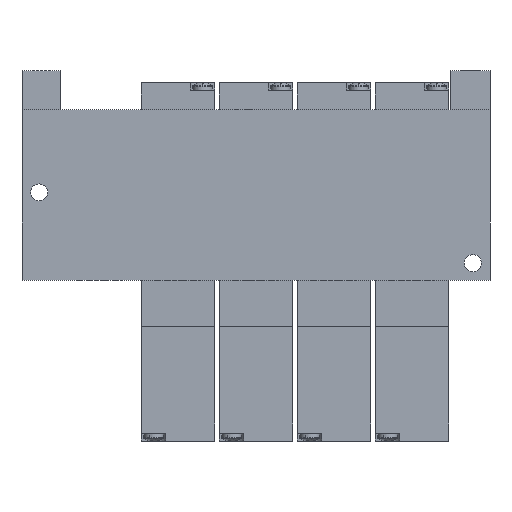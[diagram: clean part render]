
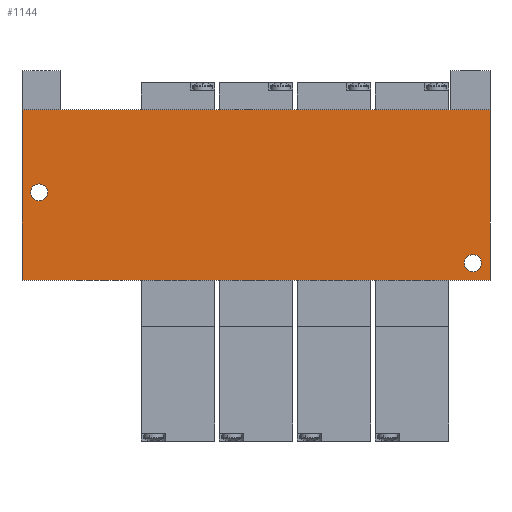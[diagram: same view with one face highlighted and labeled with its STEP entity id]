
A CAD part, front view. The second image highlights one B-rep face of the part: STEP entity #1144.
In plain terms, the highlighted planar face has unit normal (0, -1, 0).
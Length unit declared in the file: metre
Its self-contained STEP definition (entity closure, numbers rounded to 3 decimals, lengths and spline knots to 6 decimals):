
#85 = VECTOR ( 'NONE', #13110, 1. ) ;
#326 = AXIS2_PLACEMENT_3D ( 'NONE', #5568, #12861, #6583 ) ;
#420 = DIRECTION ( 'NONE',  ( 0., 0., -1. ) ) ;
#441 = LINE ( 'NONE', #4815, #85 ) ;
#682 = CARTESIAN_POINT ( 'NONE',  ( 0.0445, -0.0095, -0.01225 ) ) ;
#938 = VERTEX_POINT ( 'NONE', #3395 ) ;
#979 = EDGE_CURVE ( 'NONE', #4202, #12375, #11154, .T. ) ;
#1144 = ADVANCED_FACE ( 'NONE', ( #10148, #7099, #12693 ), #1616, .F. ) ;
#1429 = CARTESIAN_POINT ( 'NONE',  ( 0.0445, -0.0095, -0.01575 ) ) ;
#1525 = CARTESIAN_POINT ( 'NONE',  ( 0.048, -0.0095, 0.0175 ) ) ;
#1567 = EDGE_CURVE ( 'NONE', #6897, #13196, #6293, .T. ) ;
#1616 = PLANE ( 'NONE',  #9732 ) ;
#1753 = DIRECTION ( 'NONE',  ( 0., 1., 0. ) ) ;
#1802 = DIRECTION ( 'NONE',  ( 0., 0., -1. ) ) ;
#1841 = LINE ( 'NONE', #12042, #7453 ) ;
#2218 = CIRCLE ( 'NONE', #326, 0.00175 ) ;
#2504 = CIRCLE ( 'NONE', #10066, 0.00175 ) ;
#2596 = VERTEX_POINT ( 'NONE', #4224 ) ;
#3395 = CARTESIAN_POINT ( 'NONE',  ( -0.048, -0.0095, -0.0175 ) ) ;
#3651 = ORIENTED_EDGE ( 'NONE', *, *, #12636, .F. ) ;
#3874 = DIRECTION ( 'NONE',  ( 0., 0., 1. ) ) ;
#3883 = VECTOR ( 'NONE', #11899, 1. ) ;
#4066 = EDGE_CURVE ( 'NONE', #13196, #6897, #2218, .T. ) ;
#4152 = DIRECTION ( 'NONE',  ( 0., -1., 0. ) ) ;
#4193 = CARTESIAN_POINT ( 'NONE',  ( 0.0445, -0.0095, -0.014 ) ) ;
#4202 = VERTEX_POINT ( 'NONE', #1429 ) ;
#4224 = CARTESIAN_POINT ( 'NONE',  ( -0.048, -0.0095, 0.0175 ) ) ;
#4261 = EDGE_CURVE ( 'NONE', #12570, #938, #441, .T. ) ;
#4478 = EDGE_LOOP ( 'NONE', ( #11073, #9592, #8164, #3651 ) ) ;
#4579 = CARTESIAN_POINT ( 'NONE',  ( 0.048, -0.0095, 0.0175 ) ) ;
#4625 = ORIENTED_EDGE ( 'NONE', *, *, #979, .F. ) ;
#4663 = CARTESIAN_POINT ( 'NONE',  ( -0.048, -0.0095, 0. ) ) ;
#4815 = CARTESIAN_POINT ( 'NONE',  ( 0., -0.0095, -0.0175 ) ) ;
#5503 = CARTESIAN_POINT ( 'NONE',  ( -0.0445, -0.0095, -0.00125 ) ) ;
#5568 = CARTESIAN_POINT ( 'NONE',  ( -0.0445, -0.0095, 0.0005 ) ) ;
#6293 = CIRCLE ( 'NONE', #12328, 0.00175 ) ;
#6390 = EDGE_LOOP ( 'NONE', ( #11909, #4625 ) ) ;
#6583 = DIRECTION ( 'NONE',  ( 0., 0., 1. ) ) ;
#6769 = CARTESIAN_POINT ( 'NONE',  ( -0.0445, -0.0095, 0.00225 ) ) ;
#6884 = CARTESIAN_POINT ( 'NONE',  ( -0.0445, -0.0095, 0.0005 ) ) ;
#6897 = VERTEX_POINT ( 'NONE', #6769 ) ;
#6911 = DIRECTION ( 'NONE',  ( 0., -1., 0. ) ) ;
#6956 = DIRECTION ( 'NONE',  ( 0., 0., 1. ) ) ;
#6972 = EDGE_CURVE ( 'NONE', #12375, #4202, #2504, .T. ) ;
#7099 = FACE_BOUND ( 'NONE', #12782, .T. ) ;
#7291 = VECTOR ( 'NONE', #12762, 1. ) ;
#7453 = VECTOR ( 'NONE', #420, 1. ) ;
#7517 = ORIENTED_EDGE ( 'NONE', *, *, #4066, .F. ) ;
#8164 = ORIENTED_EDGE ( 'NONE', *, *, #12944, .F. ) ;
#9181 = CARTESIAN_POINT ( 'NONE',  ( 0.0445, -0.0095, -0.014 ) ) ;
#9229 = DIRECTION ( 'NONE',  ( 0., -1., 0. ) ) ;
#9351 = LINE ( 'NONE', #4663, #3883 ) ;
#9592 = ORIENTED_EDGE ( 'NONE', *, *, #4261, .F. ) ;
#9632 = DIRECTION ( 'NONE',  ( 0., 0., 1. ) ) ;
#9732 = AXIS2_PLACEMENT_3D ( 'NONE', #1525, #1753, #1802 ) ;
#10066 = AXIS2_PLACEMENT_3D ( 'NONE', #9181, #9229, #9632 ) ;
#10148 = FACE_BOUND ( 'NONE', #6390, .T. ) ;
#10326 = LINE ( 'NONE', #11670, #7291 ) ;
#10722 = ORIENTED_EDGE ( 'NONE', *, *, #1567, .F. ) ;
#11073 = ORIENTED_EDGE ( 'NONE', *, *, #13267, .F. ) ;
#11154 = CIRCLE ( 'NONE', #11424, 0.00175 ) ;
#11424 = AXIS2_PLACEMENT_3D ( 'NONE', #4193, #4152, #3874 ) ;
#11670 = CARTESIAN_POINT ( 'NONE',  ( 0., -0.0095, 0.0175 ) ) ;
#11899 = DIRECTION ( 'NONE',  ( 0., 0., 1. ) ) ;
#11909 = ORIENTED_EDGE ( 'NONE', *, *, #6972, .F. ) ;
#12042 = CARTESIAN_POINT ( 'NONE',  ( 0.048, -0.0095, 0. ) ) ;
#12092 = VERTEX_POINT ( 'NONE', #4579 ) ;
#12328 = AXIS2_PLACEMENT_3D ( 'NONE', #6884, #6911, #6956 ) ;
#12375 = VERTEX_POINT ( 'NONE', #682 ) ;
#12570 = VERTEX_POINT ( 'NONE', #12621 ) ;
#12621 = CARTESIAN_POINT ( 'NONE',  ( 0.048, -0.0095, -0.0175 ) ) ;
#12636 = EDGE_CURVE ( 'NONE', #2596, #12092, #10326, .T. ) ;
#12693 = FACE_OUTER_BOUND ( 'NONE', #4478, .T. ) ;
#12762 = DIRECTION ( 'NONE',  ( 1., 0., 0. ) ) ;
#12782 = EDGE_LOOP ( 'NONE', ( #10722, #7517 ) ) ;
#12861 = DIRECTION ( 'NONE',  ( 0., -1., 0. ) ) ;
#12944 = EDGE_CURVE ( 'NONE', #12092, #12570, #1841, .T. ) ;
#13110 = DIRECTION ( 'NONE',  ( -1., 0., 0. ) ) ;
#13196 = VERTEX_POINT ( 'NONE', #5503 ) ;
#13267 = EDGE_CURVE ( 'NONE', #938, #2596, #9351, .T. ) ;
